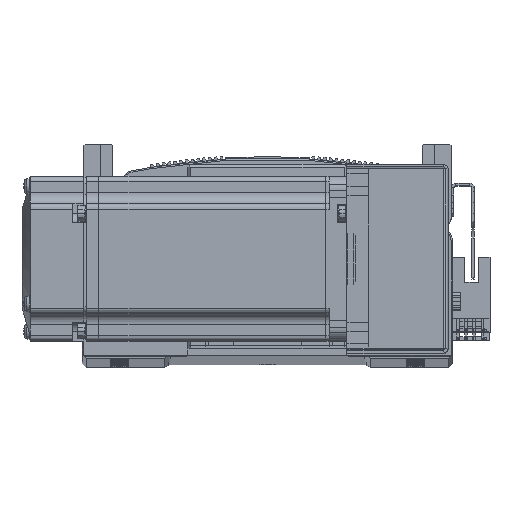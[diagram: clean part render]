
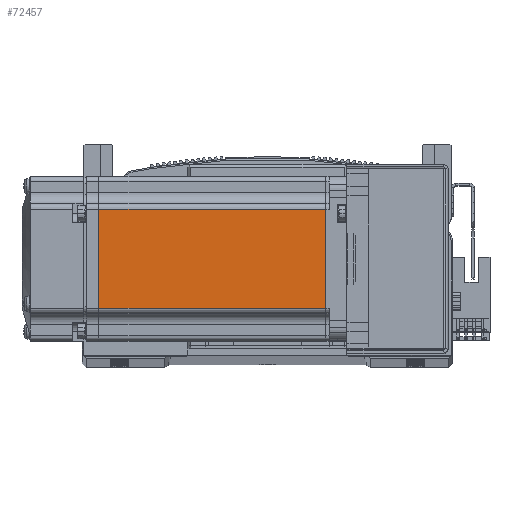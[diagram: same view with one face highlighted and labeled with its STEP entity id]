
A CAD part, top view. The second image highlights one B-rep face of the part: STEP entity #72457.
In plain terms, the highlighted planar face has unit normal (0, 0, 1) as drawn and (0, -1, 0) by its records, which use the part's own axes.
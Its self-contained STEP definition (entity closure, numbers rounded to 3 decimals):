
#2115 = VERTEX_POINT ( 'NONE', #76571 ) ;
#2117 = VERTEX_POINT ( 'NONE', #76558 ) ;
#2164 = VERTEX_POINT ( 'NONE', #76613 ) ;
#2170 = VERTEX_POINT ( 'NONE', #76644 ) ;
#4390 = AXIS2_PLACEMENT_3D ( 'NONE', #68047, #68040, #68042 ) ;
#13936 = LINE ( 'NONE', #85456, #13948 ) ;
#13948 = VECTOR ( 'NONE', #85460, 1000. ) ;
#14015 = VECTOR ( 'NONE', #85476, 1000. ) ;
#14028 = LINE ( 'NONE', #85484, #14015 ) ;
#14132 = VECTOR ( 'NONE', #85641, 1000. ) ;
#14161 = LINE ( 'NONE', #85667, #14132 ) ;
#14166 = LINE ( 'NONE', #85653, #14176 ) ;
#14176 = VECTOR ( 'NONE', #85658, 1000. ) ;
#21206 = ORIENTED_EDGE ( 'NONE', *, *, #68586, .F. ) ;
#21220 = ORIENTED_EDGE ( 'NONE', *, *, #68412, .T. ) ;
#21234 = ORIENTED_EDGE ( 'NONE', *, *, #68602, .F. ) ;
#21256 = ORIENTED_EDGE ( 'NONE', *, *, #68461, .T. ) ;
#62074 = EDGE_LOOP ( 'NONE', ( #21234, #21220, #21256, #21206 ) ) ;
#68008 = PLANE ( 'NONE',  #4390 ) ;
#68040 = DIRECTION ( 'NONE',  ( 0., -1., 0. ) ) ;
#68042 = DIRECTION ( 'NONE',  ( 0., 0., -1. ) ) ;
#68047 = CARTESIAN_POINT ( 'NONE',  ( -6.5, -30., -25. ) ) ;
#68412 = EDGE_CURVE ( 'NONE', #2170, #2164, #13936, .T. ) ;
#68461 = EDGE_CURVE ( 'NONE', #2164, #2115, #14028, .T. ) ;
#68586 = EDGE_CURVE ( 'NONE', #2117, #2115, #14166, .T. ) ;
#68602 = EDGE_CURVE ( 'NONE', #2170, #2117, #14161, .T. ) ;
#72457 = ADVANCED_FACE ( 'NONE', ( #75811 ), #68008, .T. ) ;
#75811 = FACE_OUTER_BOUND ( 'NONE', #62074, .T. ) ;
#76558 = CARTESIAN_POINT ( 'NONE',  ( -7.75, -30., -18. ) ) ;
#76571 = CARTESIAN_POINT ( 'NONE',  ( -90.45, -30., -18. ) ) ;
#76613 = CARTESIAN_POINT ( 'NONE',  ( -90.45, -30., 18. ) ) ;
#76644 = CARTESIAN_POINT ( 'NONE',  ( -7.75, -30., 18. ) ) ;
#85456 = CARTESIAN_POINT ( 'NONE',  ( -6.5, -30., 18. ) ) ;
#85460 = DIRECTION ( 'NONE',  ( -1., 0., 0. ) ) ;
#85476 = DIRECTION ( 'NONE',  ( 0., 0., -1. ) ) ;
#85484 = CARTESIAN_POINT ( 'NONE',  ( -90.45, -30., 0. ) ) ;
#85641 = DIRECTION ( 'NONE',  ( 0., 0., -1. ) ) ;
#85653 = CARTESIAN_POINT ( 'NONE',  ( -6.5, -30., -18. ) ) ;
#85658 = DIRECTION ( 'NONE',  ( -1., 0., 0. ) ) ;
#85667 = CARTESIAN_POINT ( 'NONE',  ( -7.75, -30., 0. ) ) ;
